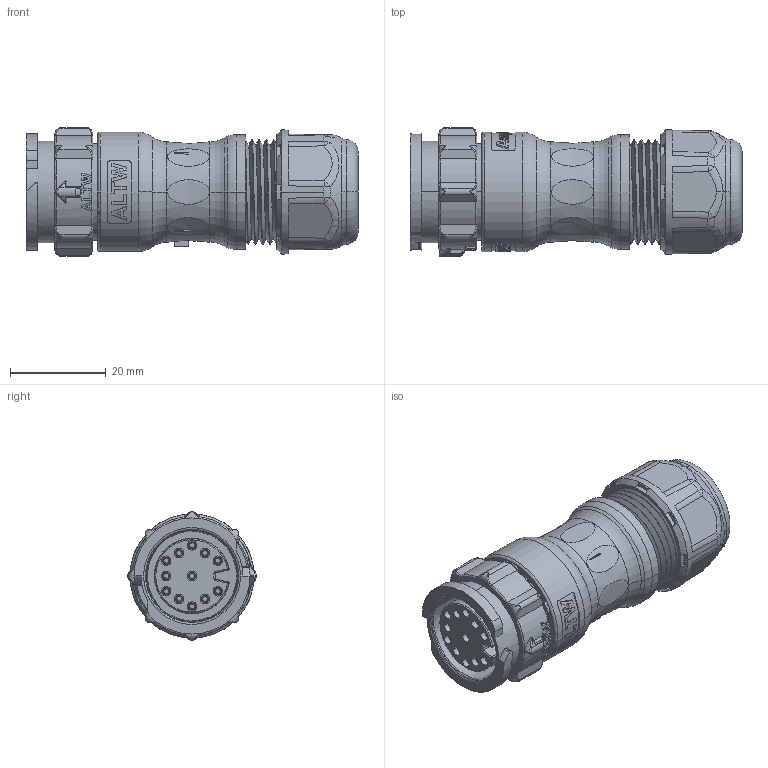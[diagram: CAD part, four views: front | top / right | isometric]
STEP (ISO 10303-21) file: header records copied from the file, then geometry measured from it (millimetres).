
FILE_DESCRIPTION((''),'2;1');
FILE_NAME('DD-12BMFA-QL8AP0','2021-10-28T',('L210038'),(''),'PRO/ENGINEER BY PARAMETRIC TECHNOLOGY CORPORATION, 2017170','PRO/ENGINEER BY PARAMETRIC TECHNOLOGY CORPORATION, 2017170','');
FILE_SCHEMA(('CONFIG_CONTROL_DESIGN'));
Products named in the file (1): DD-12BMFA-QL8AP0
Bounding box: 69.5 x 27 x 27 mm (x, y, z)
Volume: 21173.1 mm3; surface area: 12746.5 mm2
Topology: 1 solids, 1 shells, 1669 faces, 4431 edges, 2856 vertices
Faces by surface type: plane 519, cylinder 452, bspline 367, torus 117, extrusion 100, cone 99, sphere 15
Entity records: 79966 total; most frequent: CARTESIAN_POINT 39435, ORIENTED_EDGE 8862, DIRECTION 6575, EDGE_CURVE 4431, VERTEX_POINT 2856, AXIS2_PLACEMENT_3D 2454, EDGE_LOOP 1763, B_SPLINE_CURVE_WITH_KNOTS 1712
